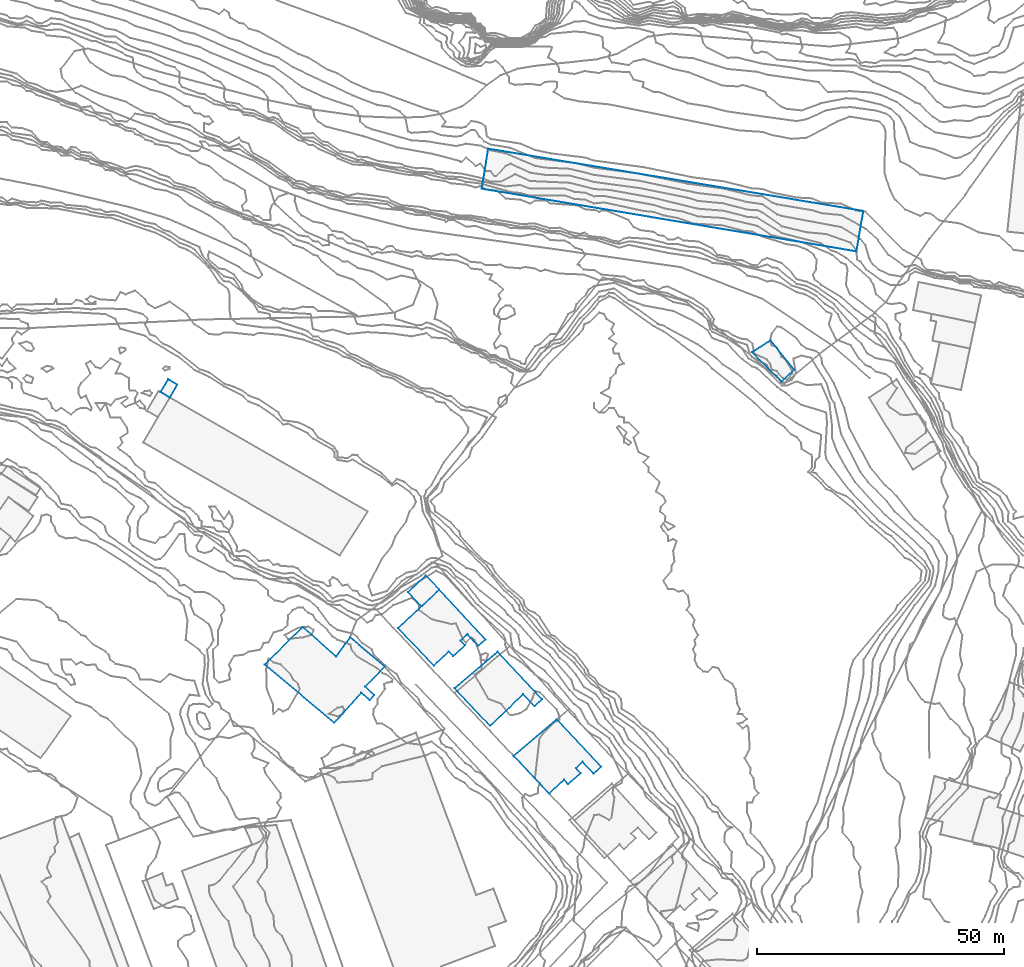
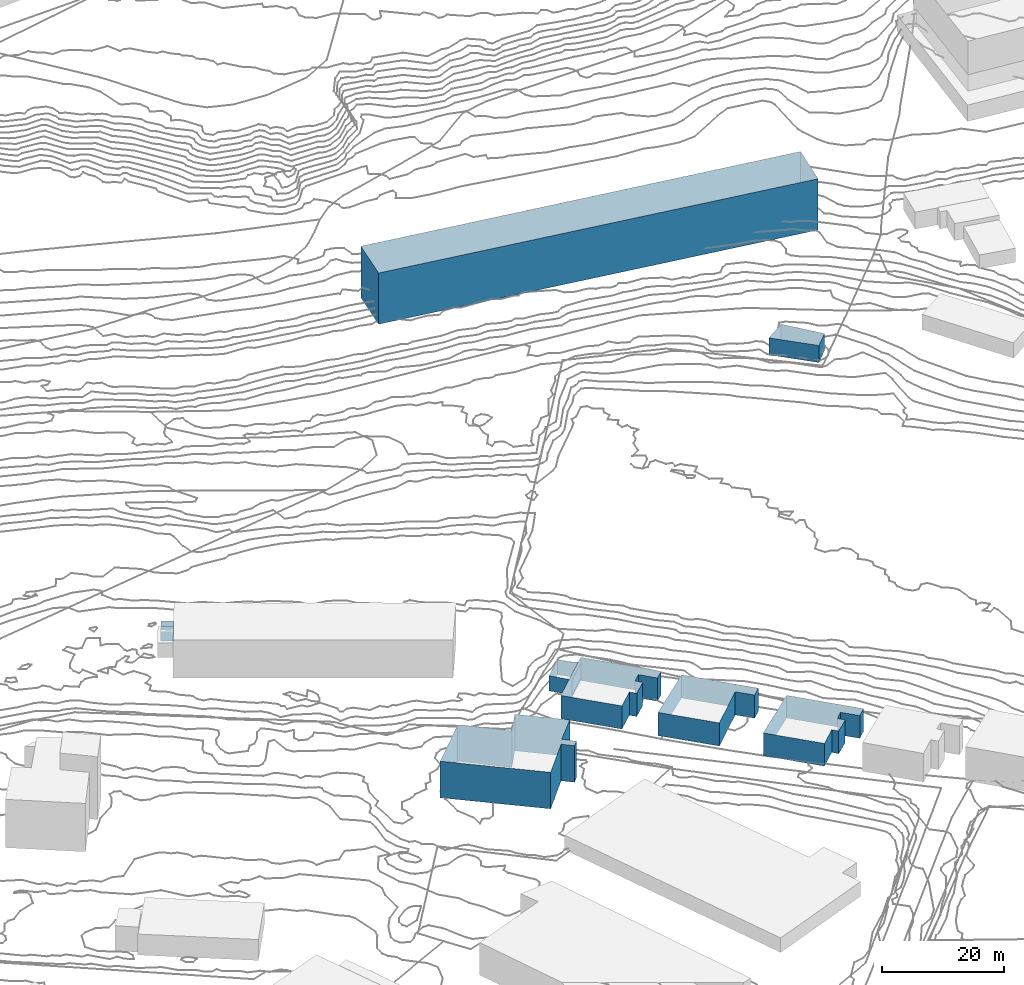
# Not in any storey, part 34 of 419: 8 walls.
"""IFC2X3 model written with IfcOpenShell, lengths in metres."""

from ifc_helpers import new_model, si_unit, frame, origin_with_axes, place, context, subcontext, project, faceted_brep, element, save


model = new_model("IFC2X3")

# Units and contexts
model_context = context("Model", 3, precision=1e-05, world=origin_with_axes())
body_context = subcontext(model_context, "Body", "Model", "MODEL_VIEW")
ifc_project = project(units=[si_unit("AREAUNIT", "SQUARE_METRE"), si_unit("LENGTHUNIT", "METRE")], contexts=[model_context])

# Walls
wall_1_placement = place(None, frame((489.2920204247, 217.2976909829, 50.7399997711), z_axis=(0.0, 0.0, 1.0), x_axis=(1.0, 0.0, 0.0)))
element("IfcWall", 1, at=wall_1_placement, Name="Mur 0", context=body_context, shape_type="Brep", body=[
    faceted_brep([(0.0, 0.0, 10.2600002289), (1.3, 8.0999999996, 10.2600002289), (0.0, 0.0, 0.0), (1.3, 8.0999999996, 0.0), (75.9, -12.7000000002, 10.2600002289), (75.9, -12.7000000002, 0.0), (77.3, -4.5, 10.2600002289), (77.3, -4.5, 0.0)], [[[0, 1, 2]], [[2, 1, 3]], [[4, 0, 5]], [[5, 0, 2]], [[1, 6, 3]], [[3, 6, 7]], [[6, 4, 7]], [[7, 4, 5]]]),
])
wall_2_placement = place(None, frame((472.3920204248, 128.2976909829, 31.6524000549), z_axis=(0.0, 0.0, 1.0), x_axis=(1.0, 0.0, 0.0)))
element("IfcWall", 2, at=wall_2_placement, Name="Mur 0", context=body_context, shape_type="Brep", body=[
    faceted_brep([(7.2, -7.6000000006, 4.6475999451), (0.0, 0.0, 4.6475999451), (7.2, -7.6000000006, 0.0), (0.0, 0.0, 0.0), (10.2, -4.8000000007, 4.6475999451), (10.2, -4.8000000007, 0.0), (11.1, -5.7000000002, 4.6475999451), (11.1, -5.7000000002, 0.0), (13.5, -3.5, 4.6475999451), (13.5, -3.5, 0.0), (12.6, -2.5, 4.6475999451), (12.6, -2.5, 0.0), (14.0, -1.2000000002, 4.6475999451), (14.0, -1.2000000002, 0.0), (16.2, -3.6000000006, 4.6475999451), (16.2, -3.6000000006, 0.0), (17.7, -2.3000000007, 4.6475999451), (17.7, -2.3000000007, 0.0), (8.2999999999, 7.7999999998, 4.6475999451), (8.2999999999, 7.7999999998, 0.0)], [[[0, 1, 2]], [[2, 1, 3]], [[4, 0, 5]], [[5, 0, 2]], [[6, 4, 7]], [[7, 4, 5]], [[8, 6, 9]], [[9, 6, 7]], [[10, 8, 11]], [[11, 8, 9]], [[12, 10, 13]], [[13, 10, 11]], [[14, 12, 15]], [[15, 12, 13]], [[16, 14, 17]], [[17, 14, 15]], [[1, 18, 3]], [[3, 18, 19]], [[18, 16, 19]], [[19, 16, 17]]]),
])
wall_3_placement = place(None, frame((445.2920204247, 120.8976909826, 29.7809999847), z_axis=(0.0, 0.0, 1.0), x_axis=(1.0, 0.0, 0.0)))
element("IfcWall", 3, at=wall_3_placement, Name="Mur 0", context=body_context, shape_type="Brep", body=[
    faceted_brep([(14.5, 1.5999999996, 7.3190000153), (17.3, 5.5, 7.3190000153), (14.5, 1.5999999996, 0.0), (17.3, 5.5, 0.0), (7.7000000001, 7.5999999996, 7.3190000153), (7.7000000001, 7.5999999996, 0.0), (0.0, 0.0, 7.3190000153), (0.0, 0.0, 0.0), (14.1000000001, -11.7999999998, 7.3190000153), (14.1000000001, -11.7999999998, 0.0), (19.6000000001, -5.7000000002, 7.3190000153), (19.6000000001, -5.7000000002, 0.0), (21.3, -7.2000000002, 7.3190000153), (21.3, -7.2000000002, 0.0), (22.2000000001, -6.2000000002, 7.3190000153), (22.2000000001, -6.2000000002, 0.0), (20.4, -4.5, 7.3190000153), (20.4, -4.5, 0.0), (24.3, -0.4000000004, 7.3190000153), (24.3, -0.4000000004, 0.0)], [[[0, 1, 2]], [[2, 1, 3]], [[4, 0, 5]], [[5, 0, 2]], [[6, 4, 7]], [[7, 4, 5]], [[8, 6, 9]], [[9, 6, 7]], [[10, 8, 11]], [[11, 8, 9]], [[12, 10, 13]], [[13, 10, 11]], [[14, 12, 15]], [[15, 12, 13]], [[16, 14, 17]], [[17, 14, 15]], [[1, 18, 3]], [[3, 18, 19]], [[18, 16, 19]], [[19, 16, 17]]]),
])
wall_4_placement = place(None, frame((474.3920204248, 135.5976909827, 32.0834997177), z_axis=(0.0, 0.0, 1.0), x_axis=(1.0, 0.0, 0.0)))
element("IfcWall", 4, at=wall_4_placement, Name="Mur 0", context=body_context, shape_type="Brep", body=[
    faceted_brep([(6.2999999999, 0.5, 3.0165002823), (2.7, -2.9000000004, 3.0165002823), (6.2999999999, 0.5, 0.0), (2.7, -2.9000000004, 0.0), (3.5, 3.2999999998, 3.0165002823), (3.5, 3.2999999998, 0.0), (0.0, 0.0, 3.0165002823), (0.0, 0.0, 0.0)], [[[0, 1, 2]], [[2, 1, 3]], [[4, 0, 5]], [[5, 0, 2]], [[1, 6, 3]], [[3, 6, 7]], [[6, 4, 7]], [[7, 4, 5]]]),
])
wall_5_placement = place(None, frame((495.7920204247, 102.3976909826, 31.7419998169), z_axis=(0.0, 0.0, 1.0), x_axis=(1.0, 0.0, 0.0)))
element("IfcWall", 5, at=wall_5_placement, Name="Mur 0", context=body_context, shape_type="Brep", body=[
    faceted_brep([(0.0, 0.0, 4.5580001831), (8.7000000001, 7.4000000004, 4.5580001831), (0.0, 0.0, 0.0), (8.7000000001, 7.4000000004, 0.0), (7.2000000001, -7.5999999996, 4.5580001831), (7.2000000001, -7.5999999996, 0.0), (10.2000000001, -4.7999999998, 4.5580001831), (10.2000000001, -4.7999999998, 0.0), (11.0, -5.7000000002, 4.5580001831), (11.0, -5.7000000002, 0.0), (13.5, -3.5, 4.5580001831), (13.5, -3.5, 0.0), (12.6000000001, -2.5, 4.5580001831), (12.6000000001, -2.5, 0.0), (13.9, -1.2000000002, 4.5580001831), (13.9, -1.2000000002, 0.0), (16.2000000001, -3.5999999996, 4.5580001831), (16.2000000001, -3.5999999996, 0.0), (17.7000000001, -2.2000000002, 4.5580001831), (17.7000000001, -2.2000000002, 0.0)], [[[0, 1, 2]], [[2, 1, 3]], [[4, 0, 5]], [[5, 0, 2]], [[6, 4, 7]], [[7, 4, 5]], [[8, 6, 9]], [[9, 6, 7]], [[10, 8, 11]], [[11, 8, 9]], [[12, 10, 13]], [[13, 10, 11]], [[14, 12, 15]], [[15, 12, 13]], [[16, 14, 17]], [[17, 14, 15]], [[1, 18, 3]], [[3, 18, 19]], [[18, 16, 19]], [[19, 16, 17]]]),
])
wall_6_placement = place(None, frame((424.1920204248, 176.0976909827, 35.1159988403), z_axis=(0.0, 0.0, 1.0), x_axis=(1.0, 0.0, 0.0)))
element("IfcWall", 6, at=wall_6_placement, Name="Mur 0", context=body_context, shape_type="Brep", body=[
    faceted_brep([(1.6, 2.5999999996, 1.8840011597), (3.4, 1.5, 1.8840011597), (1.6, 2.5999999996, 0.0), (3.4, 1.5, 0.0), (0.0, 0.0, 1.8840011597), (0.0, 0.0, 0.0), (1.9, -1.1000000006, 1.8840011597), (1.9, -1.1000000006, 0.0)], [[[0, 1, 2]], [[2, 1, 3]], [[4, 0, 5]], [[5, 0, 2]], [[1, 6, 3]], [[3, 6, 7]], [[6, 4, 7]], [[7, 4, 5]]]),
])
wall_7_placement = place(None, frame((544.0920204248, 184.1976909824, 45.4949996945), z_axis=(0.0, 0.0, 1.0), x_axis=(1.0, 0.0, 0.0)))
element("IfcWall", 7, at=wall_7_placement, Name="Mur 0", context=body_context, shape_type="Brep", body=[
    faceted_brep([(0.0, 0.0, 3.4050003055), (3.7, 2.4000000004, 3.4050003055), (0.0, 0.0, 0.0), (3.7, 2.4000000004, 0.0), (6.0, -6.0, 3.4050003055), (6.0, -6.0, 0.0), (8.5, -3.5, 3.4050003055), (8.5, -3.5, 0.0)], [[[0, 1, 2]], [[2, 1, 3]], [[4, 0, 5]], [[5, 0, 2]], [[1, 6, 3]], [[3, 6, 7]], [[6, 4, 7]], [[7, 4, 5]]]),
])
wall_8_placement = place(None, frame((483.7920204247, 116.0976909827, 31.6529998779), z_axis=(0.0, 0.0, 1.0), x_axis=(1.0, 0.0, 0.0)))
element("IfcWall", 8, at=wall_8_placement, Name="Mur 0", context=body_context, shape_type="Brep", body=[
    faceted_brep([(0.0, 0.0, 4.6470001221), (8.7000000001, 7.3999999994, 4.6470001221), (0.0, 0.0, 0.0), (8.7000000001, 7.3999999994, 0.0), (7.2000000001, -7.6000000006, 4.6470001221), (7.2000000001, -7.6000000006, 0.0), (13.9, -1.2000000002, 4.6470001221), (13.9, -1.2000000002, 0.0), (16.2000000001, -3.6000000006, 4.6470001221), (16.2000000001, -3.6000000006, 0.0), (17.7000000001, -2.2000000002, 4.6470001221), (17.7000000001, -2.2000000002, 0.0)], [[[0, 1, 2]], [[2, 1, 3]], [[4, 0, 5]], [[5, 0, 2]], [[6, 4, 7]], [[7, 4, 5]], [[8, 6, 9]], [[9, 6, 7]], [[1, 10, 3]], [[3, 10, 11]], [[10, 8, 11]], [[11, 8, 9]]]),
])

save(model, "model.ifc")
